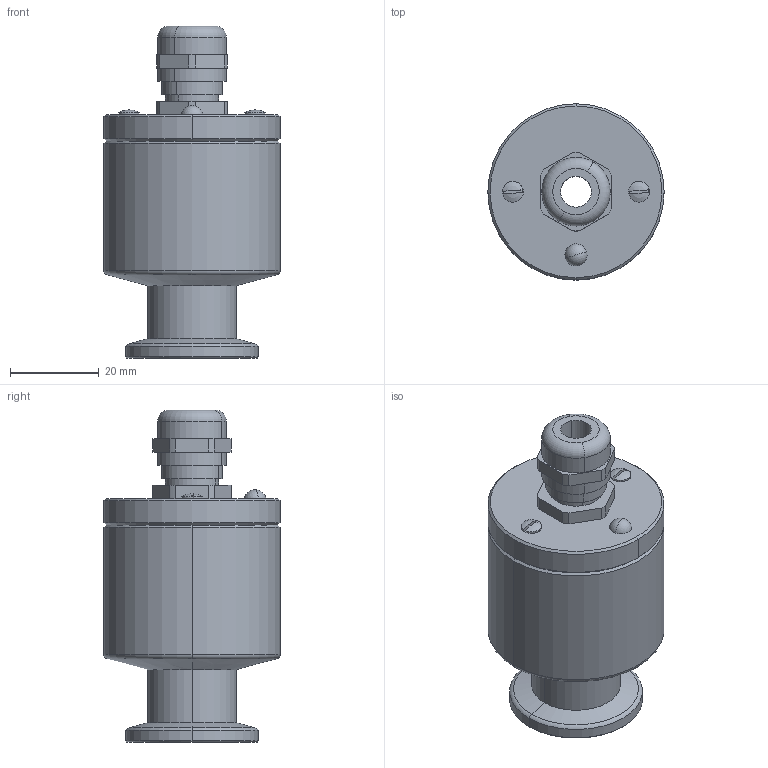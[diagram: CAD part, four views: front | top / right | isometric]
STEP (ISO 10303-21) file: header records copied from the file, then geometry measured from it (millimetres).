
FILE_DESCRIPTION (( 'STEP AP203' ), '1' );
FILE_NAME ('DI200.STEP', '2013-06-25T13:53:53', ( 'user8' ), ( '' ), 'SwSTEP 2.0', 'SolidWorks 2013', '' );
FILE_SCHEMA (( 'CONFIG_CONTROL_DESIGN' ));
Length unit declared in the file: millimetre
Products named in the file (1): DI200
Bounding box: 39.8 x 39.8 x 75 mm (x, y, z)
Surface area: 12570.1 mm2 (no closed solid volume)
Topology: 0 solids, 9 shells, 101 faces, 250 edges, 163 vertices
Faces by surface type: cylinder 42, plane 29, cone 18, torus 6, sphere 6
Entity records: 3109 total; most frequent: DIRECTION 584, CARTESIAN_POINT 539, ORIENTED_EDGE 458, EDGE_CURVE 250, AXIS2_PLACEMENT_3D 240, VERTEX_POINT 163, CIRCLE 138, EDGE_LOOP 115
